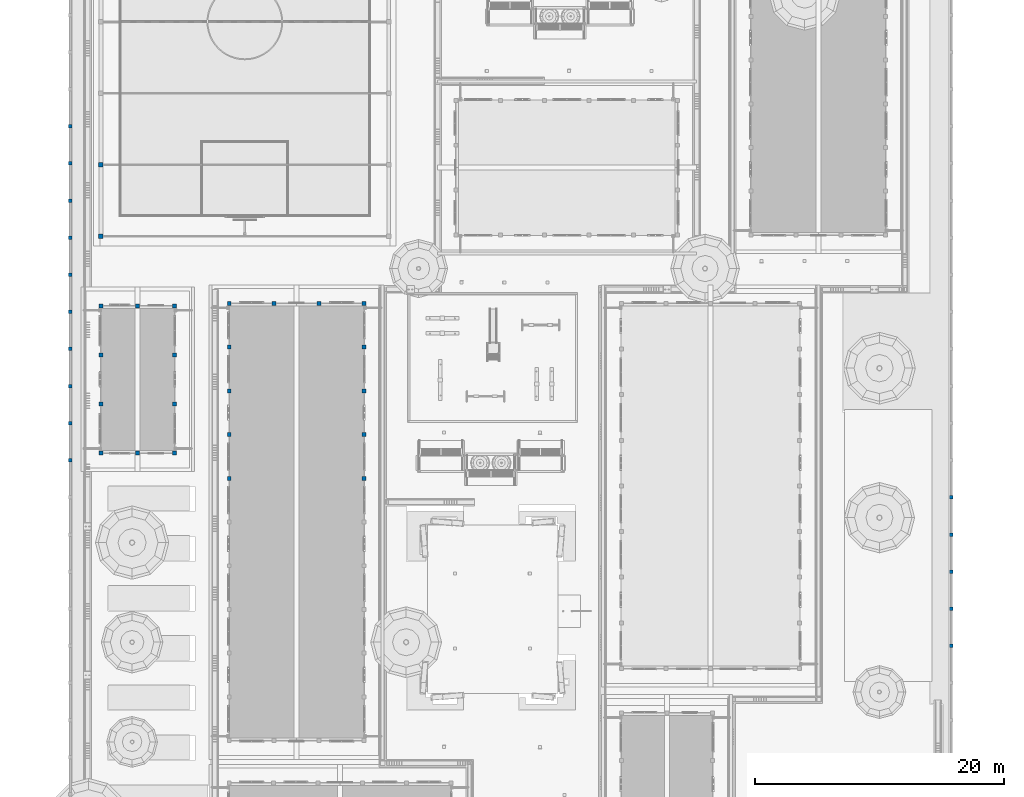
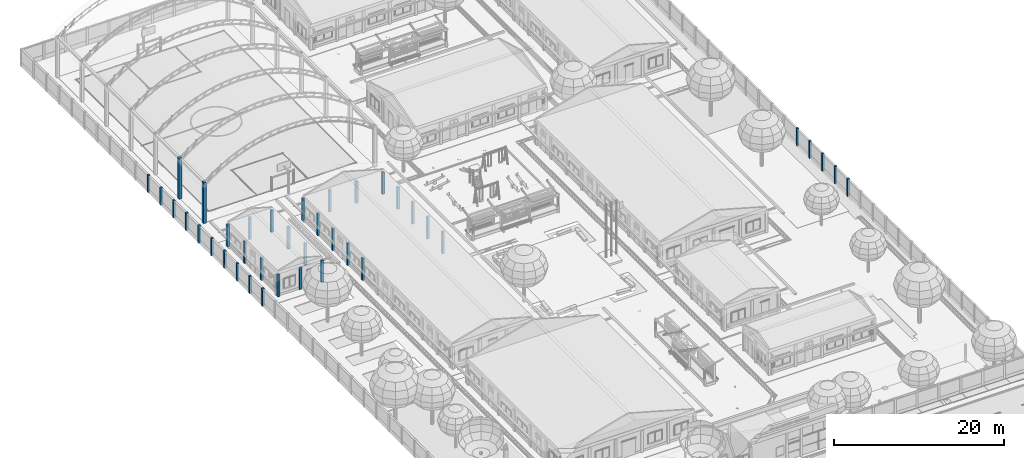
# One storey, part 6 of 166: 45 columns.
"""IFC2X3 building model written with IfcOpenShell, lengths in metres."""

import ifcopenshell
import ifcopenshell.guid

model = None  # the IFC model being written
_history = None  # IfcOwnerHistory: only IFC2X3 demands one
_inside = {}  # id of a spatial element -> (the spatial element, [elements in it])
_under = {}  # id of a project, library or spatial element -> (it, [spatial elements below it])
_declared = {}  # id of a project -> (the project, [libraries it declares])
_typed = {}  # id of a type object -> (the type object, [elements of that type])
_made_of = {}  # id of a material, layer set ... -> (it, [elements and type objects made of it])


def new_model(schema):
    """Start an empty IFC model of exactly this schema.

    Asked for "IFC4X3", IfcOpenShell would pick the latest addendum, in which some entities
    have other attributes; the version numbers below select the first issue.
    IFC2X3 requires an IfcOwnerHistory on every rooted entity: one is made here for all.
    """
    global model, _history
    if schema == "IFC4X3":
        model = ifcopenshell.file(schema_version=(4, 3, 0, 0))
    else:
        model = ifcopenshell.file(schema=schema)
    _inside.clear()
    _under.clear()
    _declared.clear()
    _typed.clear()
    _made_of.clear()
    _history = None
    if model.schema == "IFC2X3":
        org = make("IfcOrganization", Name="unknown")
        user = make(
            "IfcPersonAndOrganization",
            ThePerson=make("IfcPerson", FamilyName="unknown"),
            TheOrganization=org,
        )
        app = make(
            "IfcApplication",
            ApplicationDeveloper=org,
            Version="unknown",
            ApplicationFullName="unknown",
            ApplicationIdentifier="unknown",
        )
        _history = make(
            "IfcOwnerHistory",
            OwningUser=user,
            OwningApplication=app,
            ChangeAction="ADDED",
            CreationDate=0,
        )
    return model


def make(cls, **values):
    """One entity of the class cls with the attributes given. An attribute that is None is left unset."""
    return model.create_entity(
        cls, **{name: value for name, value in values.items() if value is not None}
    )


def rooted(cls, **values):
    """An entity with a GlobalId (a new one), such as an element, a storey or a relation."""
    return make(cls, GlobalId=ifcopenshell.guid.new(), OwnerHistory=_history, **values)


def si_unit(unit_type, name, prefix=None):
    """IfcSIUnit, for example si_unit("LENGTHUNIT", "METRE", prefix="MILLI")."""
    return make("IfcSIUnit", UnitType=unit_type, Prefix=prefix, Name=name)


def assignment(units):
    """IfcUnitAssignment: the units of a project."""
    return None if units is None else make("IfcUnitAssignment", Units=units)


def point(xyz):
    """IfcCartesianPoint."""
    return None if xyz is None else make("IfcCartesianPoint", Coordinates=xyz)


def direction(xyz):
    """IfcDirection."""
    return None if xyz is None else make("IfcDirection", DirectionRatios=xyz)


def frame(location, z_axis=None, x_axis=None):
    """IfcAxis2Placement3D, a coordinate frame: its origin and axes. An axis left out is left unset."""
    return make(
        "IfcAxis2Placement3D",
        Location=point(location),
        Axis=direction(z_axis),
        RefDirection=direction(x_axis),
    )


def origin():
    """The frame at (0, 0, 0) with its axes left unset."""
    return frame((0.0, 0.0, 0.0))


def origin_with_axes():
    """The frame at (0, 0, 0) with the z axis (0, 0, 1) and the x axis (1, 0, 0) written out."""
    return frame((0.0, 0.0, 0.0), z_axis=(0.0, 0.0, 1.0), x_axis=(1.0, 0.0, 0.0))


def place(relative_to, where):
    """IfcLocalPlacement: puts the frame where relative to a parent placement (None: the world)."""
    return make(
        "IfcLocalPlacement", PlacementRelTo=relative_to, RelativePlacement=where
    )


def context(
    kind, dimensions, precision=None, world=None, true_north=None, identifier=None
):
    """IfcGeometricRepresentationContext, for example the 3D "Model" context."""
    return make(
        "IfcGeometricRepresentationContext",
        ContextIdentifier=identifier,
        ContextType=kind,
        CoordinateSpaceDimension=dimensions,
        Precision=precision,
        WorldCoordinateSystem=world,
        TrueNorth=true_north,
    )


def subcontext(parent, identifier, kind, view, scale=None):
    """IfcGeometricRepresentationSubContext, for example "Body" below "Model"."""
    return make(
        "IfcGeometricRepresentationSubContext",
        ContextIdentifier=identifier,
        ContextType=kind,
        ParentContext=parent,
        TargetScale=scale,
        TargetView=view,
    )


def project(units=None, contexts=None):
    """IfcProject with its units and contexts."""
    return rooted(
        "IfcProject",
        Name="project",
        RepresentationContexts=contexts,
        UnitsInContext=assignment(units),
    )


def spatial(cls, under=None, at=None, **own):
    """A site, building, storey or space (cls), placed at a placement, below another one or the project."""
    s = rooted(cls, ObjectPlacement=at, **own)
    if under is not None:
        _under.setdefault(under.id(), (under, []))[1].append(s)
    return s


def faces_of(points, faces, orient=None, outer=None):
    """IfcFace entities. A face is a list of loops; a loop is a list of indices into points, from 0.

    orient and outer hold one flag for each loop. By default every Orientation is true, the
    first loop of a face is its IfcFaceOuterBound and the others are IfcFaceBound.
    """
    made = []
    for i, loops in enumerate(faces):
        bounds = []
        for j, loop in enumerate(loops):
            is_outer = j == 0 if outer is None else outer[i][j]
            bounds.append(
                make(
                    "IfcFaceOuterBound" if is_outer else "IfcFaceBound",
                    Bound=make("IfcPolyLoop", Polygon=[points[k] for k in loop]),
                    Orientation=True if orient is None else orient[i][j],
                )
            )
        made.append(make("IfcFace", Bounds=bounds))
    return made


def faceted_brep(points, faces, orient=None, outer=None, voids=None):
    """IfcFacetedBrep: a solid bounded by flat faces; with voids (closed shells), ...WithVoids."""
    shared = [point(p) for p in points]
    hull = make("IfcClosedShell", CfsFaces=faces_of(shared, faces, orient, outer))
    if voids is None:
        return make("IfcFacetedBrep", Outer=hull)
    return make(
        "IfcFacetedBrepWithVoids",
        Outer=hull,
        Voids=[
            make(cls, CfsFaces=faces_of(shared, fs, o, b)) for cls, fs, o, b in voids
        ],
    )


def shape(context_of_items, identifier, shape_type, items):
    """IfcShapeRepresentation: the items that make up one representation, for example the "Body"."""
    return make(
        "IfcShapeRepresentation",
        ContextOfItems=context_of_items,
        RepresentationIdentifier=identifier,
        RepresentationType=shape_type,
        Items=items,
    )


def made_of(thing, what):
    """Note that an element or type object is made of a material, layer set ...; save() writes the relation."""
    if what is not None:
        _made_of.setdefault(what.id(), (what, []))[1].append(thing)
    return thing


def element(
    cls,
    number,
    at=None,
    inside=None,
    cuts=None,
    type_object=None,
    material=None,
    context=None,
    identifier="Body",
    shape_type=None,
    held_by="IfcProductDefinitionShape",
    body=None,
    shapes=None,
    **own,
):
    """One element of the class cls, such as IfcWall. Its Tag is "e" and its number.

    at: its placement. inside: the storey or other place that contains it. cuts: it is an
    opening in that element (IfcRelVoidsElement). A single representation is given by context,
    identifier, shape_type and body (its items); several are given by shapes. held_by: the class
    of the entity that holds the representations. save() writes the other relations.
    """
    e = rooted(cls, Tag="e%d" % number, ObjectPlacement=at, **own)
    if body is not None:
        shapes = [shape(context, identifier, shape_type, body)]
    if shapes is not None:
        e.Representation = make(held_by, Representations=shapes)
    if inside is not None:
        _inside.setdefault(inside.id(), (inside, []))[1].append(e)
    if cuts is not None:
        rooted(
            "IfcRelVoidsElement", RelatingBuildingElement=cuts, RelatedOpeningElement=e
        )
    if type_object is not None:
        _typed.setdefault(type_object.id(), (type_object, []))[1].append(e)
    return made_of(e, material)


def aggregate(whole, parts):
    """IfcRelAggregates: a whole, such as a stair, and the parts it consists of."""
    return rooted("IfcRelAggregates", RelatingObject=whole, RelatedObjects=parts)


def save(model, path):
    """Write the relations noted so far, then the file.

    IfcRelAggregates (storeys below a building ...), IfcRelContainedInSpatialStructure (elements
    in a storey), IfcRelDefinesByType, IfcRelAssociatesMaterial and IfcRelDeclares: one each for
    every whole, place, type object, material and project.
    """
    for whole, parts in _under.values():
        aggregate(whole, parts)
    for where, things in _inside.values():
        rooted(
            "IfcRelContainedInSpatialStructure",
            RelatedElements=things,
            RelatingStructure=where,
        )
    for kind, things in _typed.values():
        rooted("IfcRelDefinesByType", RelatedObjects=things, RelatingType=kind)
    for what, things in _made_of.values():
        rooted("IfcRelAssociatesMaterial", RelatedObjects=things, RelatingMaterial=what)
    for by, libraries in _declared.values():
        rooted("IfcRelDeclares", RelatingContext=by, RelatedDefinitions=libraries)
    model.write(path)


model = new_model("IFC2X3")

# Units and contexts
model_context = context("Model", 3, precision=1e-05, world=origin_with_axes())
body_context = subcontext(model_context, "Body", "Model", "MODEL_VIEW")
ifc_project = project(units=[si_unit("LENGTHUNIT", "METRE"), si_unit("AREAUNIT", "SQUARE_METRE"), si_unit("VOLUMEUNIT", "CUBIC_METRE"), si_unit("PLANEANGLEUNIT", "RADIAN")], contexts=[model_context])

# Site, building, storey
site_placement = place(None, origin_with_axes())
site = spatial("IfcSite", under=ifc_project, at=site_placement, Name="Predio Los Mangos - Morales, San Martín", CompositionType="ELEMENT")
building_placement = place(site_placement, origin())
building = spatial("IfcBuilding", under=site, at=building_placement, Name="Hogar de Refugio Temporal", CompositionType="ELEMENT")
storey_placement = place(building_placement, origin())
storey = spatial("IfcBuildingStorey", under=building, at=storey_placement, Name="NIVEL 1 (NPT +0.00)", CompositionType="ELEMENT", Elevation=0.0)

# Columns
column_1_placement = place(storey_placement, origin())
element("IfcColumn", 1, at=column_1_placement, inside=storey, Name="E-04_col", ObjectType="Columna", context=body_context, shape_type="Brep", body=[
    faceted_brep([(13.64, 87.04, 0.15), (13.64, 87.36, 0.15), (13.96, 87.36, 0.15), (13.96, 87.04, 0.15), (13.64, 87.04, 3.3), (13.96, 87.04, 3.3), (13.96, 87.36, 3.3), (13.64, 87.36, 3.3)], [[[0, 1, 2, 3]], [[4, 5, 6, 7]], [[0, 3, 5, 4]], [[3, 2, 6, 5]], [[2, 1, 7, 6]], [[1, 0, 4, 7]]]),
])
column_2_placement = place(storey_placement, origin())
element("IfcColumn", 2, at=column_2_placement, inside=storey, Name="E-04_col", ObjectType="Columna", context=body_context, shape_type="Brep", body=[
    faceted_brep([(17.24, 87.04, 0.15), (17.24, 87.36, 0.15), (17.56, 87.36, 0.15), (17.56, 87.04, 0.15), (17.24, 87.04, 3.3), (17.56, 87.04, 3.3), (17.56, 87.36, 3.3), (17.24, 87.36, 3.3)], [[[0, 1, 2, 3]], [[4, 5, 6, 7]], [[0, 3, 5, 4]], [[3, 2, 6, 5]], [[2, 1, 7, 6]], [[1, 0, 4, 7]]]),
])
column_3_placement = place(storey_placement, origin())
element("IfcColumn", 3, at=column_3_placement, inside=storey, Name="E-04_col", ObjectType="Columna", context=body_context, shape_type="Brep", body=[
    faceted_brep([(20.84, 87.04, 0.15), (20.84, 87.36, 0.15), (21.16, 87.36, 0.15), (21.16, 87.04, 0.15), (20.84, 87.04, 3.3), (21.16, 87.04, 3.3), (21.16, 87.36, 3.3), (20.84, 87.36, 3.3)], [[[0, 1, 2, 3]], [[4, 5, 6, 7]], [[0, 3, 5, 4]], [[3, 2, 6, 5]], [[2, 1, 7, 6]], [[1, 0, 4, 7]]]),
])
column_4_placement = place(storey_placement, origin())
element("IfcColumn", 4, at=column_4_placement, inside=storey, Name="E-04_col", ObjectType="Columna", context=body_context, shape_type="Brep", body=[
    faceted_brep([(24.44, 87.04, 0.15), (24.44, 87.36, 0.15), (24.76, 87.36, 0.15), (24.76, 87.04, 0.15), (24.44, 87.04, 3.3), (24.76, 87.04, 3.3), (24.76, 87.36, 3.3), (24.44, 87.36, 3.3)], [[[0, 1, 2, 3]], [[4, 5, 6, 7]], [[0, 3, 5, 4]], [[3, 2, 6, 5]], [[2, 1, 7, 6]], [[1, 0, 4, 7]]]),
])
column_5_placement = place(storey_placement, origin())
element("IfcColumn", 5, at=column_5_placement, inside=storey, Name="E-04_col", ObjectType="Columna", context=body_context, shape_type="Brep", body=[
    faceted_brep([(13.64, 73.0, 0.15), (13.64, 73.32, 0.15), (13.96, 73.32, 0.15), (13.96, 73.0, 0.15), (13.64, 73.0, 3.3), (13.96, 73.0, 3.3), (13.96, 73.32, 3.3), (13.64, 73.32, 3.3)], [[[0, 1, 2, 3]], [[4, 5, 6, 7]], [[0, 3, 5, 4]], [[3, 2, 6, 5]], [[2, 1, 7, 6]], [[1, 0, 4, 7]]]),
])
column_6_placement = place(storey_placement, origin())
element("IfcColumn", 6, at=column_6_placement, inside=storey, Name="E-04_col", ObjectType="Columna", context=body_context, shape_type="Brep", body=[
    faceted_brep([(13.64, 76.51, 0.15), (13.64, 76.83, 0.15), (13.96, 76.83, 0.15), (13.96, 76.51, 0.15), (13.64, 76.51, 3.3), (13.96, 76.51, 3.3), (13.96, 76.83, 3.3), (13.64, 76.83, 3.3)], [[[0, 1, 2, 3]], [[4, 5, 6, 7]], [[0, 3, 5, 4]], [[3, 2, 6, 5]], [[2, 1, 7, 6]], [[1, 0, 4, 7]]]),
])
column_7_placement = place(storey_placement, origin())
element("IfcColumn", 7, at=column_7_placement, inside=storey, Name="E-04_col", ObjectType="Columna", context=body_context, shape_type="Brep", body=[
    faceted_brep([(13.64, 80.02, 0.15), (13.64, 80.34, 0.15), (13.96, 80.34, 0.15), (13.96, 80.02, 0.15), (13.64, 80.02, 3.3), (13.96, 80.02, 3.3), (13.96, 80.34, 3.3), (13.64, 80.34, 3.3)], [[[0, 1, 2, 3]], [[4, 5, 6, 7]], [[0, 3, 5, 4]], [[3, 2, 6, 5]], [[2, 1, 7, 6]], [[1, 0, 4, 7]]]),
])
column_8_placement = place(storey_placement, origin())
element("IfcColumn", 8, at=column_8_placement, inside=storey, Name="E-04_col", ObjectType="Columna", context=body_context, shape_type="Brep", body=[
    faceted_brep([(13.64, 83.53, 0.15), (13.64, 83.85, 0.15), (13.96, 83.85, 0.15), (13.96, 83.53, 0.15), (13.64, 83.53, 3.3), (13.96, 83.53, 3.3), (13.96, 83.85, 3.3), (13.64, 83.85, 3.3)], [[[0, 1, 2, 3]], [[4, 5, 6, 7]], [[0, 3, 5, 4]], [[3, 2, 6, 5]], [[2, 1, 7, 6]], [[1, 0, 4, 7]]]),
])
column_9_placement = place(storey_placement, origin())
element("IfcColumn", 9, at=column_9_placement, inside=storey, Name="E-04_col", ObjectType="Columna", context=body_context, shape_type="Brep", body=[
    faceted_brep([(13.64, 87.04, 0.15), (13.64, 87.36, 0.15), (13.96, 87.36, 0.15), (13.96, 87.04, 0.15), (13.64, 87.04, 3.3), (13.96, 87.04, 3.3), (13.96, 87.36, 3.3), (13.64, 87.36, 3.3)], [[[0, 1, 2, 3]], [[4, 5, 6, 7]], [[0, 3, 5, 4]], [[3, 2, 6, 5]], [[2, 1, 7, 6]], [[1, 0, 4, 7]]]),
])
column_10_placement = place(storey_placement, origin())
element("IfcColumn", 10, at=column_10_placement, inside=storey, Name="E-04_col", ObjectType="Columna", context=body_context, shape_type="Brep", body=[
    faceted_brep([(24.44, 73.0, 0.15), (24.44, 73.32, 0.15), (24.76, 73.32, 0.15), (24.76, 73.0, 0.15), (24.44, 73.0, 3.3), (24.76, 73.0, 3.3), (24.76, 73.32, 3.3), (24.44, 73.32, 3.3)], [[[0, 1, 2, 3]], [[4, 5, 6, 7]], [[0, 3, 5, 4]], [[3, 2, 6, 5]], [[2, 1, 7, 6]], [[1, 0, 4, 7]]]),
])
column_11_placement = place(storey_placement, origin())
element("IfcColumn", 11, at=column_11_placement, inside=storey, Name="E-04_col", ObjectType="Columna", context=body_context, shape_type="Brep", body=[
    faceted_brep([(24.44, 76.51, 0.15), (24.44, 76.83, 0.15), (24.76, 76.83, 0.15), (24.76, 76.51, 0.15), (24.44, 76.51, 3.3), (24.76, 76.51, 3.3), (24.76, 76.83, 3.3), (24.44, 76.83, 3.3)], [[[0, 1, 2, 3]], [[4, 5, 6, 7]], [[0, 3, 5, 4]], [[3, 2, 6, 5]], [[2, 1, 7, 6]], [[1, 0, 4, 7]]]),
])
column_12_placement = place(storey_placement, origin())
element("IfcColumn", 12, at=column_12_placement, inside=storey, Name="E-04_col", ObjectType="Columna", context=body_context, shape_type="Brep", body=[
    faceted_brep([(24.44, 80.02, 0.15), (24.44, 80.34, 0.15), (24.76, 80.34, 0.15), (24.76, 80.02, 0.15), (24.44, 80.02, 3.3), (24.76, 80.02, 3.3), (24.76, 80.34, 3.3), (24.44, 80.34, 3.3)], [[[0, 1, 2, 3]], [[4, 5, 6, 7]], [[0, 3, 5, 4]], [[3, 2, 6, 5]], [[2, 1, 7, 6]], [[1, 0, 4, 7]]]),
])
column_13_placement = place(storey_placement, origin())
element("IfcColumn", 13, at=column_13_placement, inside=storey, Name="E-04_col", ObjectType="Columna", context=body_context, shape_type="Brep", body=[
    faceted_brep([(24.44, 83.53, 0.15), (24.44, 83.85, 0.15), (24.76, 83.85, 0.15), (24.76, 83.53, 0.15), (24.44, 83.53, 3.3), (24.76, 83.53, 3.3), (24.76, 83.85, 3.3), (24.44, 83.85, 3.3)], [[[0, 1, 2, 3]], [[4, 5, 6, 7]], [[0, 3, 5, 4]], [[3, 2, 6, 5]], [[2, 1, 7, 6]], [[1, 0, 4, 7]]]),
])
column_14_placement = place(storey_placement, origin())
element("IfcColumn", 14, at=column_14_placement, inside=storey, Name="E-04_col", ObjectType="Columna", context=body_context, shape_type="Brep", body=[
    faceted_brep([(24.44, 87.04, 0.15), (24.44, 87.36, 0.15), (24.76, 87.36, 0.15), (24.76, 87.04, 0.15), (24.44, 87.04, 3.3), (24.76, 87.04, 3.3), (24.76, 87.36, 3.3), (24.44, 87.36, 3.3)], [[[0, 1, 2, 3]], [[4, 5, 6, 7]], [[0, 3, 5, 4]], [[3, 2, 6, 5]], [[2, 1, 7, 6]], [[1, 0, 4, 7]]]),
])
column_15_placement = place(storey_placement, origin())
element("IfcColumn", 15, at=column_15_placement, inside=storey, Name="E-09_col", ObjectType="Columna", context=body_context, shape_type="Brep", body=[
    faceted_brep([(3.34, 75.04, 0.15), (3.34, 75.36, 0.15), (3.66, 75.36, 0.15), (3.66, 75.04, 0.15), (3.34, 75.04, 3.3), (3.66, 75.04, 3.3), (3.66, 75.36, 3.3), (3.34, 75.36, 3.3)], [[[0, 1, 2, 3]], [[4, 5, 6, 7]], [[0, 3, 5, 4]], [[3, 2, 6, 5]], [[2, 1, 7, 6]], [[1, 0, 4, 7]]]),
])
column_16_placement = place(storey_placement, origin())
element("IfcColumn", 16, at=column_16_placement, inside=storey, Name="E-09_col", ObjectType="Columna", context=body_context, shape_type="Brep", body=[
    faceted_brep([(6.29, 75.04, 0.15), (6.29, 75.36, 0.15), (6.61, 75.36, 0.15), (6.61, 75.04, 0.15), (6.29, 75.04, 3.3), (6.61, 75.04, 3.3), (6.61, 75.36, 3.3), (6.29, 75.36, 3.3)], [[[0, 1, 2, 3]], [[4, 5, 6, 7]], [[0, 3, 5, 4]], [[3, 2, 6, 5]], [[2, 1, 7, 6]], [[1, 0, 4, 7]]]),
])
column_17_placement = place(storey_placement, origin())
element("IfcColumn", 17, at=column_17_placement, inside=storey, Name="E-09_col", ObjectType="Columna", context=body_context, shape_type="Brep", body=[
    faceted_brep([(9.24, 75.04, 0.15), (9.24, 75.36, 0.15), (9.56, 75.36, 0.15), (9.56, 75.04, 0.15), (9.24, 75.04, 3.3), (9.56, 75.04, 3.3), (9.56, 75.36, 3.3), (9.24, 75.36, 3.3)], [[[0, 1, 2, 3]], [[4, 5, 6, 7]], [[0, 3, 5, 4]], [[3, 2, 6, 5]], [[2, 1, 7, 6]], [[1, 0, 4, 7]]]),
])
column_18_placement = place(storey_placement, origin())
element("IfcColumn", 18, at=column_18_placement, inside=storey, Name="E-09_col", ObjectType="Columna", context=body_context, shape_type="Brep", body=[
    faceted_brep([(3.34, 86.84, 0.15), (3.34, 87.16, 0.15), (3.66, 87.16, 0.15), (3.66, 86.84, 0.15), (3.34, 86.84, 3.3), (3.66, 86.84, 3.3), (3.66, 87.16, 3.3), (3.34, 87.16, 3.3)], [[[0, 1, 2, 3]], [[4, 5, 6, 7]], [[0, 3, 5, 4]], [[3, 2, 6, 5]], [[2, 1, 7, 6]], [[1, 0, 4, 7]]]),
])
column_19_placement = place(storey_placement, origin())
element("IfcColumn", 19, at=column_19_placement, inside=storey, Name="E-09_col", ObjectType="Columna", context=body_context, shape_type="Brep", body=[
    faceted_brep([(6.29, 86.84, 0.15), (6.29, 87.16, 0.15), (6.61, 87.16, 0.15), (6.61, 86.84, 0.15), (6.29, 86.84, 3.3), (6.61, 86.84, 3.3), (6.61, 87.16, 3.3), (6.29, 87.16, 3.3)], [[[0, 1, 2, 3]], [[4, 5, 6, 7]], [[0, 3, 5, 4]], [[3, 2, 6, 5]], [[2, 1, 7, 6]], [[1, 0, 4, 7]]]),
])
column_20_placement = place(storey_placement, origin())
element("IfcColumn", 20, at=column_20_placement, inside=storey, Name="E-09_col", ObjectType="Columna", context=body_context, shape_type="Brep", body=[
    faceted_brep([(9.24, 86.84, 0.15), (9.24, 87.16, 0.15), (9.56, 87.16, 0.15), (9.56, 86.84, 0.15), (9.24, 86.84, 3.3), (9.56, 86.84, 3.3), (9.56, 87.16, 3.3), (9.24, 87.16, 3.3)], [[[0, 1, 2, 3]], [[4, 5, 6, 7]], [[0, 3, 5, 4]], [[3, 2, 6, 5]], [[2, 1, 7, 6]], [[1, 0, 4, 7]]]),
])
column_21_placement = place(storey_placement, origin())
element("IfcColumn", 21, at=column_21_placement, inside=storey, Name="E-09_col", ObjectType="Columna", context=body_context, shape_type="Brep", body=[
    faceted_brep([(3.34, 75.04, 0.15), (3.34, 75.36, 0.15), (3.66, 75.36, 0.15), (3.66, 75.04, 0.15), (3.34, 75.04, 3.3), (3.66, 75.04, 3.3), (3.66, 75.36, 3.3), (3.34, 75.36, 3.3)], [[[0, 1, 2, 3]], [[4, 5, 6, 7]], [[0, 3, 5, 4]], [[3, 2, 6, 5]], [[2, 1, 7, 6]], [[1, 0, 4, 7]]]),
])
column_22_placement = place(storey_placement, origin())
element("IfcColumn", 22, at=column_22_placement, inside=storey, Name="E-09_col", ObjectType="Columna", context=body_context, shape_type="Brep", body=[
    faceted_brep([(3.34, 78.9733, 0.15), (3.34, 79.2933, 0.15), (3.66, 79.2933, 0.15), (3.66, 78.9733, 0.15), (3.34, 78.9733, 3.3), (3.66, 78.9733, 3.3), (3.66, 79.2933, 3.3), (3.34, 79.2933, 3.3)], [[[0, 1, 2, 3]], [[4, 5, 6, 7]], [[0, 3, 5, 4]], [[3, 2, 6, 5]], [[2, 1, 7, 6]], [[1, 0, 4, 7]]]),
])
column_23_placement = place(storey_placement, origin())
element("IfcColumn", 23, at=column_23_placement, inside=storey, Name="E-09_col", ObjectType="Columna", context=body_context, shape_type="Brep", body=[
    faceted_brep([(3.34, 82.9067, 0.15), (3.34, 83.2267, 0.15), (3.66, 83.2267, 0.15), (3.66, 82.9067, 0.15), (3.34, 82.9067, 3.3), (3.66, 82.9067, 3.3), (3.66, 83.2267, 3.3), (3.34, 83.2267, 3.3)], [[[0, 1, 2, 3]], [[4, 5, 6, 7]], [[0, 3, 5, 4]], [[3, 2, 6, 5]], [[2, 1, 7, 6]], [[1, 0, 4, 7]]]),
])
column_24_placement = place(storey_placement, origin())
element("IfcColumn", 24, at=column_24_placement, inside=storey, Name="E-09_col", ObjectType="Columna", context=body_context, shape_type="Brep", body=[
    faceted_brep([(3.34, 86.84, 0.15), (3.34, 87.16, 0.15), (3.66, 87.16, 0.15), (3.66, 86.84, 0.15), (3.34, 86.84, 3.3), (3.66, 86.84, 3.3), (3.66, 87.16, 3.3), (3.34, 87.16, 3.3)], [[[0, 1, 2, 3]], [[4, 5, 6, 7]], [[0, 3, 5, 4]], [[3, 2, 6, 5]], [[2, 1, 7, 6]], [[1, 0, 4, 7]]]),
])
column_25_placement = place(storey_placement, origin())
element("IfcColumn", 25, at=column_25_placement, inside=storey, Name="E-09_col", ObjectType="Columna", context=body_context, shape_type="Brep", body=[
    faceted_brep([(9.24, 75.04, 0.15), (9.24, 75.36, 0.15), (9.56, 75.36, 0.15), (9.56, 75.04, 0.15), (9.24, 75.04, 3.3), (9.56, 75.04, 3.3), (9.56, 75.36, 3.3), (9.24, 75.36, 3.3)], [[[0, 1, 2, 3]], [[4, 5, 6, 7]], [[0, 3, 5, 4]], [[3, 2, 6, 5]], [[2, 1, 7, 6]], [[1, 0, 4, 7]]]),
])
column_26_placement = place(storey_placement, origin())
element("IfcColumn", 26, at=column_26_placement, inside=storey, Name="E-09_col", ObjectType="Columna", context=body_context, shape_type="Brep", body=[
    faceted_brep([(9.24, 78.9733, 0.15), (9.24, 79.2933, 0.15), (9.56, 79.2933, 0.15), (9.56, 78.9733, 0.15), (9.24, 78.9733, 3.3), (9.56, 78.9733, 3.3), (9.56, 79.2933, 3.3), (9.24, 79.2933, 3.3)], [[[0, 1, 2, 3]], [[4, 5, 6, 7]], [[0, 3, 5, 4]], [[3, 2, 6, 5]], [[2, 1, 7, 6]], [[1, 0, 4, 7]]]),
])
column_27_placement = place(storey_placement, origin())
element("IfcColumn", 27, at=column_27_placement, inside=storey, Name="E-09_col", ObjectType="Columna", context=body_context, shape_type="Brep", body=[
    faceted_brep([(9.24, 82.9067, 0.15), (9.24, 83.2267, 0.15), (9.56, 83.2267, 0.15), (9.56, 82.9067, 0.15), (9.24, 82.9067, 3.3), (9.56, 82.9067, 3.3), (9.56, 83.2267, 3.3), (9.24, 83.2267, 3.3)], [[[0, 1, 2, 3]], [[4, 5, 6, 7]], [[0, 3, 5, 4]], [[3, 2, 6, 5]], [[2, 1, 7, 6]], [[1, 0, 4, 7]]]),
])
column_28_placement = place(storey_placement, origin())
element("IfcColumn", 28, at=column_28_placement, inside=storey, Name="E-09_col", ObjectType="Columna", context=body_context, shape_type="Brep", body=[
    faceted_brep([(9.24, 86.84, 0.15), (9.24, 87.16, 0.15), (9.56, 87.16, 0.15), (9.56, 86.84, 0.15), (9.24, 86.84, 3.3), (9.56, 86.84, 3.3), (9.56, 87.16, 3.3), (9.24, 87.16, 3.3)], [[[0, 1, 2, 3]], [[4, 5, 6, 7]], [[0, 3, 5, 4]], [[3, 2, 6, 5]], [[2, 1, 7, 6]], [[1, 0, 4, 7]]]),
])
column_29_placement = place(storey_placement, origin())
element("IfcColumn", 29, at=column_29_placement, inside=storey, Name="columna_losa", ObjectType="Columna", context=body_context, shape_type="Brep", body=[
    faceted_brep([(3.32, 92.42, 0.12), (3.32, 92.78, 0.12), (3.68, 92.78, 0.12), (3.68, 92.42, 0.12), (3.32, 92.42, 6.0), (3.68, 92.42, 6.0), (3.68, 92.78, 6.0), (3.32, 92.78, 6.0)], [[[0, 1, 2, 3]], [[4, 5, 6, 7]], [[0, 3, 5, 4]], [[3, 2, 6, 5]], [[2, 1, 7, 6]], [[1, 0, 4, 7]]]),
])
column_30_placement = place(storey_placement, origin())
element("IfcColumn", 30, at=column_30_placement, inside=storey, Name="columna_losa", ObjectType="Columna", context=body_context, shape_type="Brep", body=[
    faceted_brep([(3.32, 98.1533, 0.12), (3.32, 98.5133, 0.12), (3.68, 98.5133, 0.12), (3.68, 98.1533, 0.12), (3.32, 98.1533, 6.0), (3.68, 98.1533, 6.0), (3.68, 98.5133, 6.0), (3.32, 98.5133, 6.0)], [[[0, 1, 2, 3]], [[4, 5, 6, 7]], [[0, 3, 5, 4]], [[3, 2, 6, 5]], [[2, 1, 7, 6]], [[1, 0, 4, 7]]]),
])
column_31_placement = place(storey_placement, origin())
element("IfcColumn", 31, at=column_31_placement, inside=storey, Name="columna_cerco", ObjectType="Columna", context=body_context, shape_type="Brep", body=[
    faceted_brep([(71.9, 59.5689, 0.0), (71.62, 59.5689, 0.0), (71.62, 59.8489, 0.0), (71.9, 59.8489, 0.0), (71.9, 59.5689, 2.5), (71.9, 59.8489, 2.5), (71.62, 59.8489, 2.5), (71.62, 59.5689, 2.5)], [[[0, 1, 2, 3]], [[4, 5, 6, 7]], [[0, 3, 5, 4]], [[3, 2, 6, 5]], [[2, 1, 7, 6]], [[1, 0, 4, 7]]]),
])
column_32_placement = place(storey_placement, origin())
element("IfcColumn", 32, at=column_32_placement, inside=storey, Name="columna_cerco", ObjectType="Columna", context=body_context, shape_type="Brep", body=[
    faceted_brep([(71.9, 62.5482, 0.0), (71.62, 62.5482, 0.0), (71.62, 62.8282, 0.0), (71.9, 62.8282, 0.0), (71.9, 62.5482, 2.5), (71.9, 62.8282, 2.5), (71.62, 62.8282, 2.5), (71.62, 62.5482, 2.5)], [[[0, 1, 2, 3]], [[4, 5, 6, 7]], [[0, 3, 5, 4]], [[3, 2, 6, 5]], [[2, 1, 7, 6]], [[1, 0, 4, 7]]]),
])
column_33_placement = place(storey_placement, origin())
element("IfcColumn", 33, at=column_33_placement, inside=storey, Name="columna_cerco", ObjectType="Columna", context=body_context, shape_type="Brep", body=[
    faceted_brep([(71.9, 65.5274, 0.0), (71.62, 65.5274, 0.0), (71.62, 65.8074, 0.0), (71.9, 65.8074, 0.0), (71.9, 65.5274, 2.5), (71.9, 65.8074, 2.5), (71.62, 65.8074, 2.5), (71.62, 65.5274, 2.5)], [[[0, 1, 2, 3]], [[4, 5, 6, 7]], [[0, 3, 5, 4]], [[3, 2, 6, 5]], [[2, 1, 7, 6]], [[1, 0, 4, 7]]]),
])
column_34_placement = place(storey_placement, origin())
element("IfcColumn", 34, at=column_34_placement, inside=storey, Name="columna_cerco", ObjectType="Columna", context=body_context, shape_type="Brep", body=[
    faceted_brep([(71.9, 68.5066, 0.0), (71.62, 68.5066, 0.0), (71.62, 68.7866, 0.0), (71.9, 68.7866, 0.0), (71.9, 68.5066, 2.5), (71.9, 68.7866, 2.5), (71.62, 68.7866, 2.5), (71.62, 68.5066, 2.5)], [[[0, 1, 2, 3]], [[4, 5, 6, 7]], [[0, 3, 5, 4]], [[3, 2, 6, 5]], [[2, 1, 7, 6]], [[1, 0, 4, 7]]]),
])
column_35_placement = place(storey_placement, origin())
element("IfcColumn", 35, at=column_35_placement, inside=storey, Name="columna_cerco", ObjectType="Columna", context=body_context, shape_type="Brep", body=[
    faceted_brep([(71.9, 71.4858, 0.0), (71.62, 71.4858, 0.0), (71.62, 71.7658, 0.0), (71.9, 71.7658, 0.0), (71.9, 71.4858, 2.5), (71.9, 71.7658, 2.5), (71.62, 71.7658, 2.5), (71.62, 71.4858, 2.5)], [[[0, 1, 2, 3]], [[4, 5, 6, 7]], [[0, 3, 5, 4]], [[3, 2, 6, 5]], [[2, 1, 7, 6]], [[1, 0, 4, 7]]]),
])
column_36_placement = place(storey_placement, origin())
element("IfcColumn", 36, at=column_36_placement, inside=storey, Name="columna_cerco", ObjectType="Columna", context=body_context, shape_type="Brep", body=[
    faceted_brep([(0.91, 101.5579, 0.0), (1.19, 101.5579, 0.0), (1.19, 101.2779, 0.0), (0.91, 101.2779, 0.0), (0.91, 101.5579, 2.5), (0.91, 101.2779, 2.5), (1.19, 101.2779, 2.5), (1.19, 101.5579, 2.5)], [[[0, 1, 2, 3]], [[4, 5, 6, 7]], [[0, 3, 5, 4]], [[3, 2, 6, 5]], [[2, 1, 7, 6]], [[1, 0, 4, 7]]]),
])
column_37_placement = place(storey_placement, origin())
element("IfcColumn", 37, at=column_37_placement, inside=storey, Name="columna_cerco", ObjectType="Columna", context=body_context, shape_type="Brep", body=[
    faceted_brep([(0.91, 98.5787, 0.0), (1.19, 98.5787, 0.0), (1.19, 98.2987, 0.0), (0.91, 98.2987, 0.0), (0.91, 98.5787, 2.5), (0.91, 98.2987, 2.5), (1.19, 98.2987, 2.5), (1.19, 98.5787, 2.5)], [[[0, 1, 2, 3]], [[4, 5, 6, 7]], [[0, 3, 5, 4]], [[3, 2, 6, 5]], [[2, 1, 7, 6]], [[1, 0, 4, 7]]]),
])
column_38_placement = place(storey_placement, origin())
element("IfcColumn", 38, at=column_38_placement, inside=storey, Name="columna_cerco", ObjectType="Columna", context=body_context, shape_type="Brep", body=[
    faceted_brep([(0.91, 95.5995, 0.0), (1.19, 95.5995, 0.0), (1.19, 95.3195, 0.0), (0.91, 95.3195, 0.0), (0.91, 95.5995, 2.5), (0.91, 95.3195, 2.5), (1.19, 95.3195, 2.5), (1.19, 95.5995, 2.5)], [[[0, 1, 2, 3]], [[4, 5, 6, 7]], [[0, 3, 5, 4]], [[3, 2, 6, 5]], [[2, 1, 7, 6]], [[1, 0, 4, 7]]]),
])
column_39_placement = place(storey_placement, origin())
element("IfcColumn", 39, at=column_39_placement, inside=storey, Name="columna_cerco", ObjectType="Columna", context=body_context, shape_type="Brep", body=[
    faceted_brep([(0.91, 92.6203, 0.0), (1.19, 92.6203, 0.0), (1.19, 92.3403, 0.0), (0.91, 92.3403, 0.0), (0.91, 92.6203, 2.5), (0.91, 92.3403, 2.5), (1.19, 92.3403, 2.5), (1.19, 92.6203, 2.5)], [[[0, 1, 2, 3]], [[4, 5, 6, 7]], [[0, 3, 5, 4]], [[3, 2, 6, 5]], [[2, 1, 7, 6]], [[1, 0, 4, 7]]]),
])
column_40_placement = place(storey_placement, origin())
element("IfcColumn", 40, at=column_40_placement, inside=storey, Name="columna_cerco", ObjectType="Columna", context=body_context, shape_type="Brep", body=[
    faceted_brep([(0.91, 89.6411, 0.0), (1.19, 89.6411, 0.0), (1.19, 89.3611, 0.0), (0.91, 89.3611, 0.0), (0.91, 89.6411, 2.5), (0.91, 89.3611, 2.5), (1.19, 89.3611, 2.5), (1.19, 89.6411, 2.5)], [[[0, 1, 2, 3]], [[4, 5, 6, 7]], [[0, 3, 5, 4]], [[3, 2, 6, 5]], [[2, 1, 7, 6]], [[1, 0, 4, 7]]]),
])
column_41_placement = place(storey_placement, origin())
element("IfcColumn", 41, at=column_41_placement, inside=storey, Name="columna_cerco", ObjectType="Columna", context=body_context, shape_type="Brep", body=[
    faceted_brep([(0.91, 86.6618, 0.0), (1.19, 86.6618, 0.0), (1.19, 86.3818, 0.0), (0.91, 86.3818, 0.0), (0.91, 86.6618, 2.5), (0.91, 86.3818, 2.5), (1.19, 86.3818, 2.5), (1.19, 86.6618, 2.5)], [[[0, 1, 2, 3]], [[4, 5, 6, 7]], [[0, 3, 5, 4]], [[3, 2, 6, 5]], [[2, 1, 7, 6]], [[1, 0, 4, 7]]]),
])
column_42_placement = place(storey_placement, origin())
element("IfcColumn", 42, at=column_42_placement, inside=storey, Name="columna_cerco", ObjectType="Columna", context=body_context, shape_type="Brep", body=[
    faceted_brep([(0.91, 83.6826, 0.0), (1.19, 83.6826, 0.0), (1.19, 83.4026, 0.0), (0.91, 83.4026, 0.0), (0.91, 83.6826, 2.5), (0.91, 83.4026, 2.5), (1.19, 83.4026, 2.5), (1.19, 83.6826, 2.5)], [[[0, 1, 2, 3]], [[4, 5, 6, 7]], [[0, 3, 5, 4]], [[3, 2, 6, 5]], [[2, 1, 7, 6]], [[1, 0, 4, 7]]]),
])
column_43_placement = place(storey_placement, origin())
element("IfcColumn", 43, at=column_43_placement, inside=storey, Name="columna_cerco", ObjectType="Columna", context=body_context, shape_type="Brep", body=[
    faceted_brep([(0.91, 80.7034, 0.0), (1.19, 80.7034, 0.0), (1.19, 80.4234, 0.0), (0.91, 80.4234, 0.0), (0.91, 80.7034, 2.5), (0.91, 80.4234, 2.5), (1.19, 80.4234, 2.5), (1.19, 80.7034, 2.5)], [[[0, 1, 2, 3]], [[4, 5, 6, 7]], [[0, 3, 5, 4]], [[3, 2, 6, 5]], [[2, 1, 7, 6]], [[1, 0, 4, 7]]]),
])
column_44_placement = place(storey_placement, origin())
element("IfcColumn", 44, at=column_44_placement, inside=storey, Name="columna_cerco", ObjectType="Columna", context=body_context, shape_type="Brep", body=[
    faceted_brep([(0.91, 77.7242, 0.0), (1.19, 77.7242, 0.0), (1.19, 77.4442, 0.0), (0.91, 77.4442, 0.0), (0.91, 77.7242, 2.5), (0.91, 77.4442, 2.5), (1.19, 77.4442, 2.5), (1.19, 77.7242, 2.5)], [[[0, 1, 2, 3]], [[4, 5, 6, 7]], [[0, 3, 5, 4]], [[3, 2, 6, 5]], [[2, 1, 7, 6]], [[1, 0, 4, 7]]]),
])
column_45_placement = place(storey_placement, origin())
element("IfcColumn", 45, at=column_45_placement, inside=storey, Name="columna_cerco", ObjectType="Columna", context=body_context, shape_type="Brep", body=[
    faceted_brep([(0.91, 74.745, 0.0), (1.19, 74.745, 0.0), (1.19, 74.465, 0.0), (0.91, 74.465, 0.0), (0.91, 74.745, 2.5), (0.91, 74.465, 2.5), (1.19, 74.465, 2.5), (1.19, 74.745, 2.5)], [[[0, 1, 2, 3]], [[4, 5, 6, 7]], [[0, 3, 5, 4]], [[3, 2, 6, 5]], [[2, 1, 7, 6]], [[1, 0, 4, 7]]]),
])

save(model, "model.ifc")
